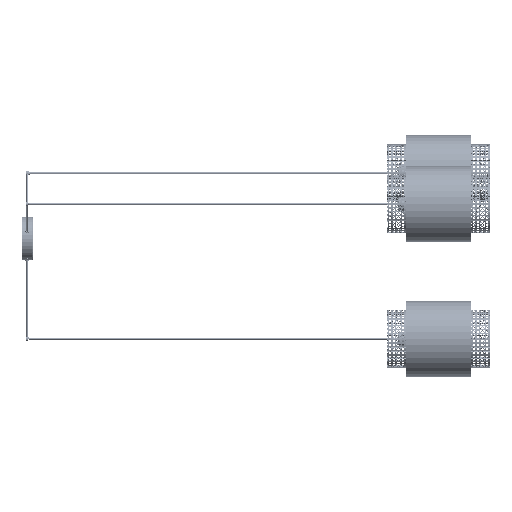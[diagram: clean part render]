
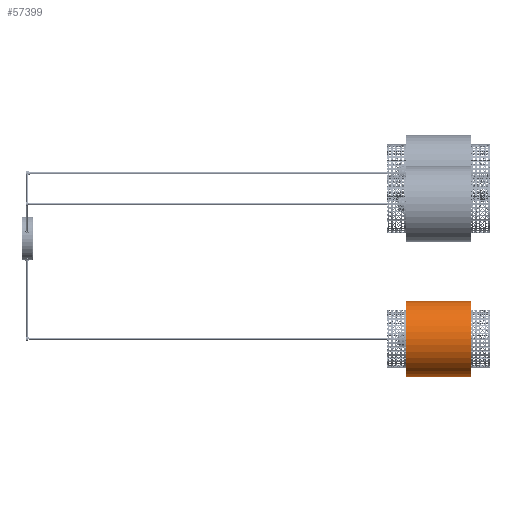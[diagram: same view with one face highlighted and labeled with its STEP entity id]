
A CAD part, left-side view. The second image highlights one B-rep face of the part: STEP entity #57399.
In plain terms, the highlighted cylindrical face has radius 105 mm (diameter 210 mm), a full revolution.
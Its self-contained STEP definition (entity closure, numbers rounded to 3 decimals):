
#7792=LINE('',#163066,#10284);
#10284=VECTOR('',#72496,105.);
#12272=CYLINDRICAL_SURFACE('',#62583,105.);
#14810=FACE_OUTER_BOUND('',#18560,.T.);
#18560=EDGE_LOOP('',(#46480,#46481,#46482,#46483));
#21907=CIRCLE('',#62579,105.);
#21910=CIRCLE('',#62584,105.);
#26222=VERTEX_POINT('',#163056);
#26225=VERTEX_POINT('',#163065);
#33475=EDGE_CURVE('',#26222,#26222,#21907,.T.);
#33479=EDGE_CURVE('',#26222,#26225,#7792,.T.);
#33480=EDGE_CURVE('',#26225,#26225,#21910,.T.);
#46480=ORIENTED_EDGE('',*,*,#33475,.T.);
#46481=ORIENTED_EDGE('',*,*,#33479,.T.);
#46482=ORIENTED_EDGE('',*,*,#33480,.T.);
#46483=ORIENTED_EDGE('',*,*,#33479,.F.);
#57399=ADVANCED_FACE('',(#14810),#12272,.T.);
#62579=AXIS2_PLACEMENT_3D('',#163057,#72485,#72486);
#62583=AXIS2_PLACEMENT_3D('',#163064,#72494,#72495);
#62584=AXIS2_PLACEMENT_3D('',#163067,#72497,#72498);
#72485=DIRECTION('center_axis',(0.,-1.,0.));
#72486=DIRECTION('ref_axis',(1.,0.,0.));
#72494=DIRECTION('center_axis',(0.,1.,0.));
#72495=DIRECTION('ref_axis',(1.,0.,0.));
#72496=DIRECTION('',(0.,-1.,0.));
#72497=DIRECTION('center_axis',(0.,1.,0.));
#72498=DIRECTION('ref_axis',(1.,0.,0.));
#163056=CARTESIAN_POINT('',(-105.,247.,0.));
#163057=CARTESIAN_POINT('Origin',(0.,247.,0.));
#163064=CARTESIAN_POINT('Origin',(0.,47.,0.));
#163065=CARTESIAN_POINT('',(-105.,67.,0.));
#163066=CARTESIAN_POINT('',(-105.,47.,0.));
#163067=CARTESIAN_POINT('Origin',(0.,67.,0.));
